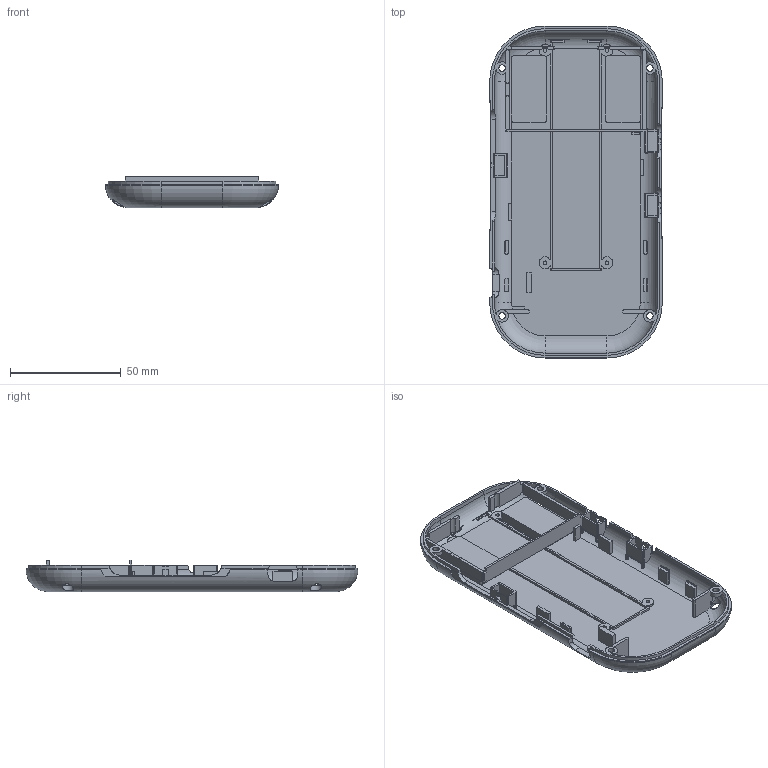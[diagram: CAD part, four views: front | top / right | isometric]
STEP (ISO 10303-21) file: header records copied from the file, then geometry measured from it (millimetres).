
FILE_DESCRIPTION(('Open CASCADE Model'),'2;1');
FILE_NAME('C27_R2_02_Back_Shell_Chalk','2026-09-09T18:02:58',('Author'), ('Open CASCADE'),'Open CASCADE STEP processor 7.9','build123d', 'Unknown');
FILE_SCHEMA(('AUTOMOTIVE_DESIGN { 1 0 10303 214 1 1 1 1 }'));
Length unit declared in the file: millimetre
Products named in the file (1): C27_R2_02_Back_Shell_Chalk
Bounding box: 78 x 150 x 14.15 mm (x, y, z)
Volume: 33266.1 mm3; surface area: 34493.3 mm2
Topology: 1 solids, 1 shells, 1221 faces, 3522 edges, 2340 vertices
Faces by surface type: plane 605, bspline 352, cylinder 254, torus 10
Full cylindrical faces by diameter (mm): 1.7 x4, 2.9 x4
Entity records: 101703 total; most frequent: CARTESIAN_POINT 38531, DIRECTION 9336, ORIENTED_EDGE 7044, PCURVE 7044, DEFINITIONAL_REPRESENTATION 7044, LINE 6126, VECTOR 6126, EDGE_CURVE 3522
